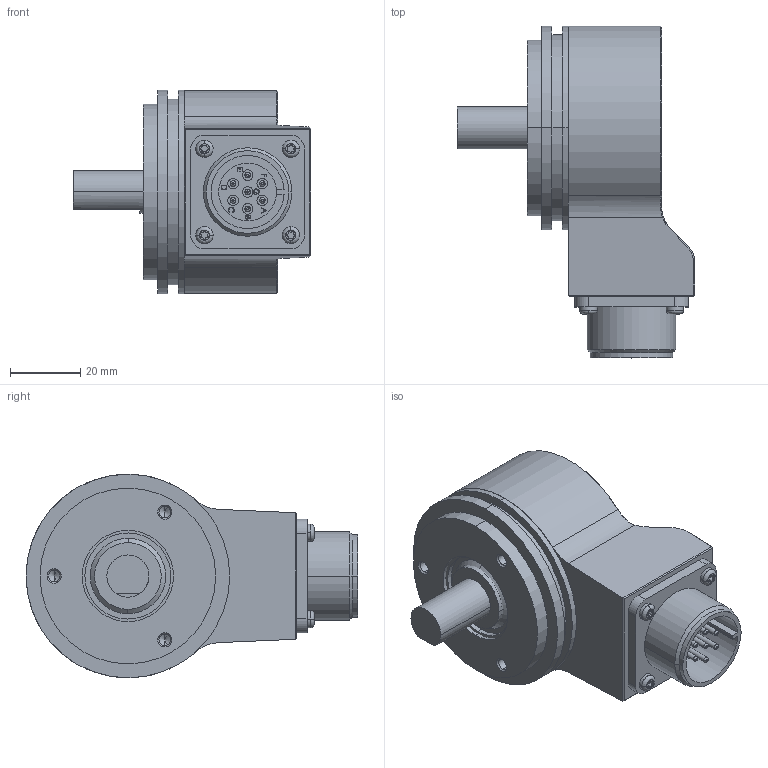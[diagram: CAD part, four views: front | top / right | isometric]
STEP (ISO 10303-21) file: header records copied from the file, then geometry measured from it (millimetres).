
FILE_DESCRIPTION (( 'STEP AP203' ), '1' );
FILE_NAME ('K58I.OXX.XXXXX.XS1S512.6XRCD.step', '2025-12-08T16:41:10', ( '' ), ( '' ), 'SwSTEP 2.0', 'SolidWorks 2021', '' );
FILE_SCHEMA (( 'CONFIG_CONTROL_DESIGN' ));
Length unit declared in the file: millimetre
Products named in the file (1): K58I.OXX.XXXXX.XS1S512.6XRCD
Bounding box: 67.69 x 94.5 x 58 mm (x, y, z)
Volume: 147631.9 mm3; surface area: 36115.1 mm2
Topology: 6 solids, 6 shells, 380 faces, 912 edges, 585 vertices
Faces by surface type: cylinder 157, plane 133, bspline 50, cone 22, torus 18
Entity records: 14870 total; most frequent: CARTESIAN_POINT 6038, ORIENTED_EDGE 1812, DIRECTION 1803, EDGE_CURVE 906, AXIS2_PLACEMENT_3D 688, VERTEX_POINT 585, EDGE_LOOP 435, LINE 427
